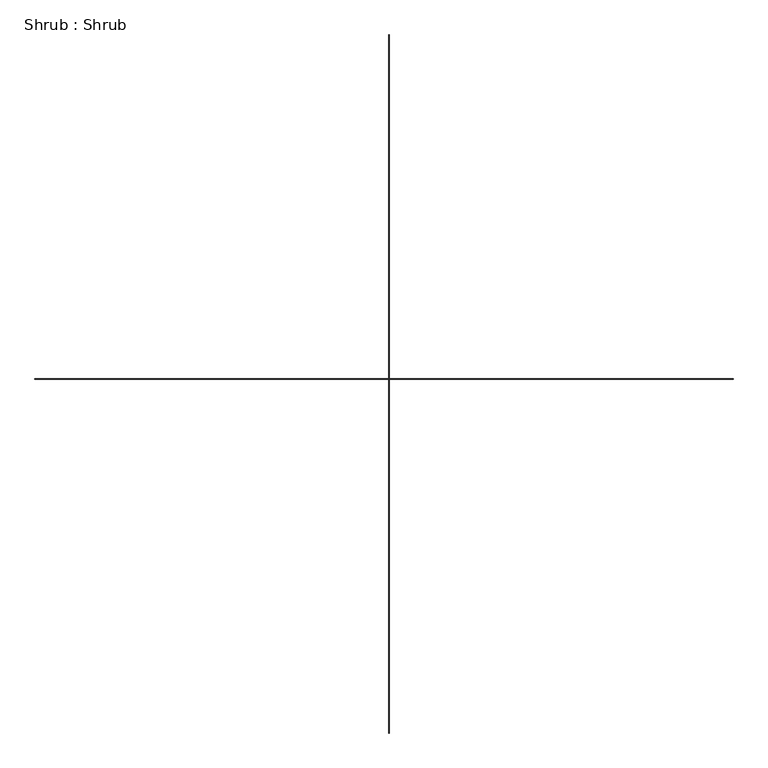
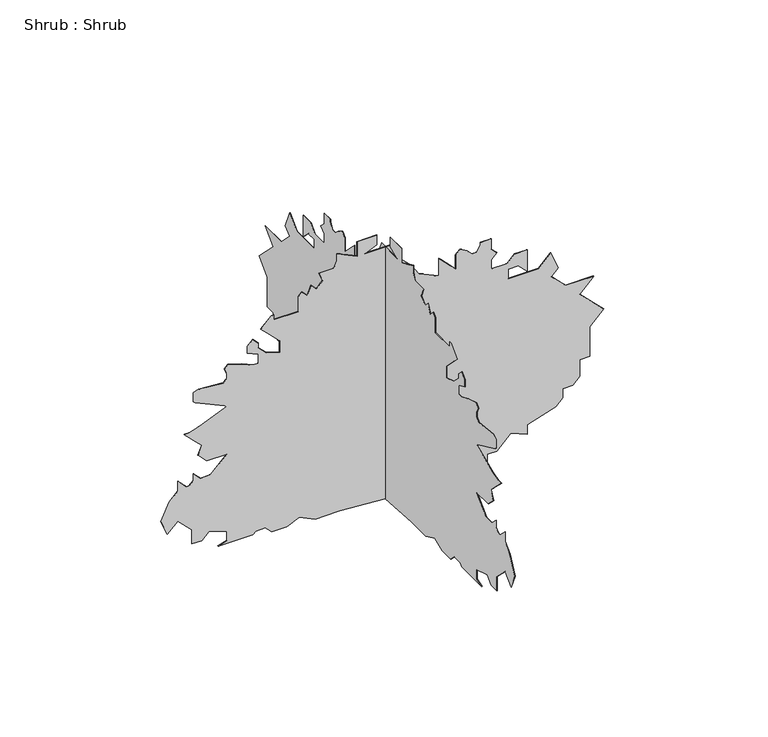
"""IFC4 building model written with IfcOpenShell, lengths in millimetres: geographic element geometry, Shrub : Shrub."""

from ifc_helpers import new_model, si_unit, frame, origin, place, context, project, spatial, polyline, outline, extrude, source, transform, mapped, element, save


def shrub_shrub_3939bb0c(model_context):
    return source(origin(), model_context, "Body", "SweptSolid", [
        extrude(outline(polyline([(29.523633, 70.2480967), (29.523633, 95.6480967), (0.0, 125.1717298), (25.4855725, 125.1717298), (43.4460847, 143.132242), (72.2685398, 171.9546971), (36.4938496, 179.2385979), (29.523633, 186.2088145), (29.523633, 234.545531), (0.0, 234.545531), (0.0, 259.945531), (29.523633, 259.945531), (29.523633, 285.345531), (65.4029375, 321.2248355), (47.9654462, 362.7153449), (73.8506069, 362.7153449), (96.7583521, 435.3904796), (114.7188644, 453.3509919), (140.1188644, 453.3509919), (140.1188644, 478.7509919), (158.0793766, 496.7115041), (202.6908834, 496.7115041), (202.6908834, 522.1115041), (232.020277, 522.1115041), (283.1303552, 522.1115041), (319.0513797, 558.0325286), (380.3724042, 496.7115041), (416.2934287, 532.6325286), (416.2934287, 460.7904796), (452.9569264, 424.1269819), (470.9174387, 442.0874941), (517.7495031, 422.4050721), (486.2141697, 390.8697386), (486.2141697, 314.6697386), (511.6141697, 314.6697386), (511.6141697, 340.0697386), (488.9685634, 362.7153449), (514.3685634, 362.7153449), (547.1116737, 362.7153449), (547.1116737, 329.9722346), (527.5646416, 310.4252025), (527.5646416, 270.9260077), (552.9646416, 270.9260077), (566.8612711, 284.8226372), (580.7579006, 270.9260077), (602.2735254, 270.9260077), (608.6235254, 270.9260077), (608.6235254, 243.0603829), (602.2735254, 243.0603829), (585.7757415, 233.5353829), (585.7757415, 220.8353829), (597.9116737, 208.6994507), (608.6235254, 190.1459792), (597.9116737, 179.4341274), (559.8116737, 179.4341274), (573.2820579, 165.9637433), (597.9116737, 141.3341274), (602.4018017, 136.8439994), (589.7018017, 136.8439994), (555.3215456, 136.8439994), (579.4741793, 85.0485094), (608.6235254, 65.6156119), (640.0544219, 34.1847155), (682.5762926, 16.3137672), (682.5762926, -53.5362328), (695.9512334, -21.712096), (721.3512334, -21.712096), (721.3512334, -72.512096), (711.2, -72.512096), (682.5762926, -72.512096), (693.3107964, -95.5323138), (706.7289262, -124.3075861), (687.6789262, -124.3075861), (670.4137629, -132.358464), (670.4137629, -170.458464), (646.9977306, -160.6172529), (630.7398251, -176.8751585), (644.2102093, -190.3455427), (620.9743269, -200.1110409), (634.444711, -213.5814251), (625.4644549, -222.5616812), (597.9116737, -222.5616812), (585.0533024, -222.5616812), (585.0533024, -285.5809964), (597.7533024, -285.5809964), (597.7533024, -291.9309964), (571.2428023, -318.4414965), (550.4137209, -297.6124152), (523.4729526, -270.6716468), (492.0016111, -270.6716468), (502.7725107, -304.8424729), (522.9780869, -325.0480492), (535.6780869, -325.0480492), (550.1571683, -339.5271305), (536.6867841, -352.9975147), (517.9513395, -352.9975147), (504.9182897, -325.0480492), (480.9303113, -325.0480492), (480.9303113, -337.7480492), (493.231825, -367.0180895), (504.6856977, -403.3556569), (495.7054416, -412.335913), (480.9303113, -406.1262711), (468.2303113, -406.1262711), (459.0486114, -415.307971), (464.583001, -478.5663343), (459.0486114, -491.7347794), (435.7840523, -491.7347794), (431.2939242, -487.2446513), (396.0185711, -411.5964125), (391.528443, -407.1062844), (362.00481, -477.3543812), (354.3688949, -501.5794261), (354.3688949, -514.2794261), (318.4478704, -478.3584016), (309.4676143, -469.3781455), (286.0515821, -479.2193565), (263.6009418, -456.7687162), (263.6009418, -406.1262711), (221.9214806, -447.8057322), (221.9214806, -473.2057322), (240.4505278, -491.7347794), (221.9214806, -491.7347794), (211.1793149, -502.4769452), (211.1793149, -508.8269452), (233.6299552, -531.2775855), (207.2789362, -531.2775855), (185.8236797, -552.732842), (139.1670955, -574.4891645), (99.2675512, -557.7203186), (125.7102844, -531.2775855), (89.7892599, -495.356561), (51.6892599, -495.356561), (51.6892599, -469.956561), (69.5815854, -452.0642354), (55.101596, -406.1262711), (29.523633, -406.1262711), (22.5818551, -428.1491562), (22.5818551, -339.2491562), (29.523633, -332.3073783), (29.523633, -306.9073783), (13.4734695, -290.8572148), (13.4734695, -252.7572148), (27.1197299, -220.2875043), (8.3343482, -180.0021232), (8.3343482, -154.6021232), (8.3343482, -116.5021232), (0.0, 0.0), (29.523633, 70.2480967)])), frame((0.0, -0.396875, 0.0), z_axis=(0.0, 1.0, 0.0), x_axis=(0.0, 0.0, 1.0)), (0.0, 0.0, 1.0), 0.79375),
        extrude(outline(polyline([(70.2480967, 29.523633), (0.0, 0.0), (-116.5021232, 8.3343482), (-154.6021232, 8.3343482), (-180.0021232, 8.3343482), (-220.2875043, 27.1197299), (-252.7572148, 13.4734695), (-290.8572148, 13.4734695), (-306.9073783, 29.523633), (-332.3073783, 29.523633), (-339.2491562, 22.5818551), (-428.1491562, 22.5818551), (-406.1262711, 29.523633), (-406.1262711, 55.101596), (-452.0642354, 69.5815854), (-469.956561, 51.6892599), (-495.356561, 51.6892599), (-495.356561, 89.7892599), (-531.2775855, 125.7102844), (-557.7203186, 99.2675512), (-574.4891645, 139.1670955), (-552.732842, 185.8236797), (-531.2775855, 207.2789362), (-531.2775855, 233.6299552), (-508.8269452, 211.1793149), (-502.4769452, 211.1793149), (-491.7347794, 221.9214806), (-491.7347794, 240.4505278), (-473.2057322, 221.9214806), (-447.8057322, 221.9214806), (-406.1262711, 263.6009418), (-456.7687162, 263.6009418), (-479.2193565, 286.0515821), (-469.3781455, 309.4676143), (-478.3584016, 318.4478704), (-514.2794261, 354.3688949), (-501.5794261, 354.3688949), (-477.3543812, 362.00481), (-407.1062844, 391.528443), (-411.5964125, 396.0185711), (-487.2446513, 431.2939242), (-491.7347794, 435.7840523), (-491.7347794, 459.0486114), (-478.5663343, 464.583001), (-415.307971, 459.0486114), (-406.1262711, 468.2303113), (-406.1262711, 480.9303113), (-412.335913, 495.7054416), (-403.3556569, 504.6856977), (-367.0180895, 493.231825), (-337.7480492, 480.9303113), (-325.0480492, 480.9303113), (-325.0480492, 504.9182897), (-352.9975147, 517.9513395), (-352.9975147, 536.6867841), (-339.5271305, 550.1571683), (-325.0480492, 535.6780869), (-325.0480492, 522.9780869), (-304.8424729, 502.7725107), (-270.6716468, 492.0016111), (-270.6716468, 523.4729526), (-297.6124152, 550.4137209), (-318.4414965, 571.2428023), (-291.9309964, 597.7533024), (-285.5809964, 597.7533024), (-285.5809964, 585.0533024), (-222.5616812, 585.0533024), (-222.5616812, 597.9116737), (-222.5616812, 625.4644549), (-213.5814251, 634.444711), (-200.1110409, 620.9743269), (-190.3455427, 644.2102093), (-176.8751585, 630.7398251), (-160.6172529, 646.9977306), (-170.458464, 670.4137629), (-132.358464, 670.4137629), (-124.3075861, 687.6789262), (-124.3075861, 706.7289262), (-95.5323138, 693.3107964), (-72.512096, 682.5762926), (-72.512096, 711.2), (-72.512096, 721.3512334), (-21.712096, 721.3512334), (-21.712096, 695.9512334), (-53.5362328, 682.5762926), (16.3137672, 682.5762926), (34.1847155, 640.0544219), (65.6156119, 608.6235254), (85.0485094, 579.4741793), (136.8439994, 555.3215456), (136.8439994, 589.7018017), (136.8439994, 602.4018017), (141.3341274, 597.9116737), (165.9637433, 573.2820579), (179.4341274, 559.8116737), (179.4341274, 597.9116737), (190.1459792, 608.6235254), (208.6994507, 597.9116737), (220.8353829, 585.7757415), (233.5353829, 585.7757415), (243.0603829, 602.2735254), (243.0603829, 608.6235254), (270.9260077, 608.6235254), (270.9260077, 602.2735254), (270.9260077, 580.7579006), (284.8226372, 566.8612711), (270.9260077, 552.9646416), (270.9260077, 527.5646416), (310.4252025, 527.5646416), (329.9722346, 547.1116737), (362.7153449, 547.1116737), (362.7153449, 514.3685634), (362.7153449, 488.9685634), (340.0697386, 511.6141697), (314.6697386, 511.6141697), (314.6697386, 486.2141697), (390.8697386, 486.2141697), (422.4050721, 517.7495031), (442.0874941, 470.9174387), (424.1269819, 452.9569264), (460.7904796, 416.2934287), (532.6325286, 416.2934287), (496.7115041, 380.3724042), (558.0325286, 319.0513797), (522.1115041, 283.1303552), (522.1115041, 232.020277), (522.1115041, 202.6908834), (496.7115041, 202.6908834), (496.7115041, 158.0793766), (478.7509919, 140.1188644), (453.3509919, 140.1188644), (453.3509919, 114.7188644), (435.3904796, 96.7583521), (362.7153449, 73.8506069), (362.7153449, 47.9654462), (321.2248355, 65.4029375), (285.345531, 29.523633), (259.945531, 29.523633), (259.945531, 0.0), (234.545531, 0.0), (234.545531, 29.523633), (186.2088145, 29.523633), (179.2385979, 36.4938496), (171.9546971, 72.2685398), (143.132242, 43.4460847), (125.1717298, 25.4855725), (125.1717298, 0.0), (95.6480967, 29.523633), (70.2480967, 29.523633)])), frame((-0.396875, 0.0, 0.0), z_axis=(1.0, 0.0, 0.0), x_axis=(0.0, 1.0, 0.0)), (0.0, 0.0, 1.0), 0.79375),
    ])


if __name__ == "__main__":
    model = new_model("IFC4")
    model_context = context("Model", 3, world=origin())
    ifc_project = project(units=[si_unit("LENGTHUNIT", "METRE", prefix="MILLI")], contexts=[model_context])
    site = spatial("IfcSite", under=ifc_project)
    building = spatial("IfcBuilding", under=site)
    placement = place(None, origin())
    shrub_shrub_shape = shrub_shrub_3939bb0c(model_context)
    element("IfcGeographicElement", 1, ObjectType="Shrub : Shrub", at=placement, inside=building, context=model_context, shape_type="MappedRepresentation", body=[
        mapped(shrub_shrub_shape, transform((0.0, 0.0, 0.0), x_axis=(1.0, 0.0, 0.0), y_axis=(0.0, 1.0, 0.0), z_axis=(0.0, 0.0, 1.0))),
    ])
    save(model, "model.ifc")
